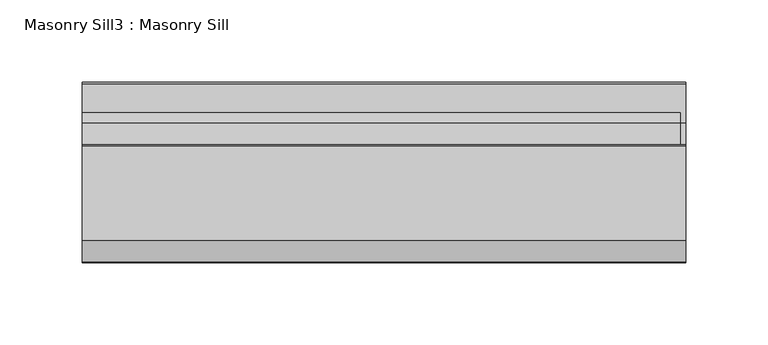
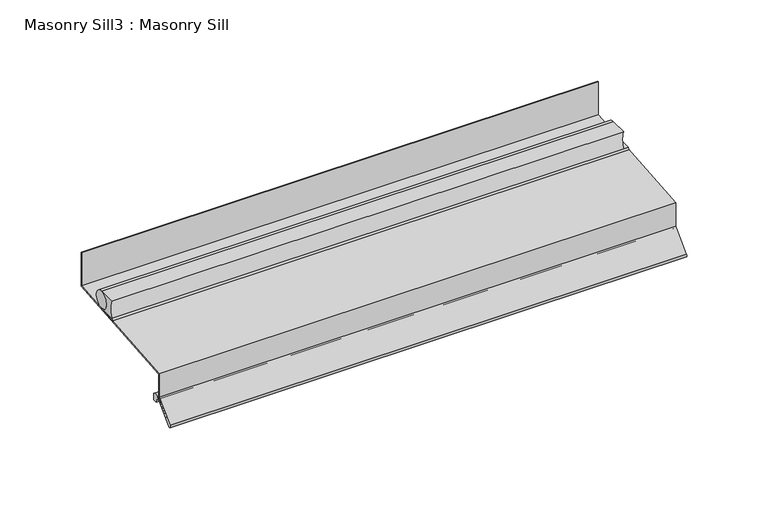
"""IFC4 building model written with IfcOpenShell, lengths in millimetres: proxy geometry, Masonry Sill3 : Masonry Sill."""

from ifc_helpers import new_model, si_unit, point, frame, frame_2d, origin, place, context, project, spatial, polyline, circle_curve, trimmed, segment, composite_curve, outline, extrude, source, transform, mapped, element, save


def masonry_sill3_masonry_sill_9eb3d358(model_context):
    return source(origin(), model_context, "Body", "SweptSolid", [
        extrude(outline(composite_curve([segment(trimmed(circle_curve(frame_2d((605.834275, 465.1375)), 6.35), [point((605.834275, 471.4875))], [point((605.834275, 458.7875))], True, "CARTESIAN"), True, "CONTINUOUS"), segment(polyline([(605.834275, 458.7875), (593.134275, 458.7875)]), True, "CONTINUOUS"), segment(trimmed(circle_curve(frame_2d((582.1357524, 465.1375)), 12.7), [point((593.134275, 458.7875))], [point((593.134275, 471.4875))], True, "CARTESIAN"), True, "CONTINUOUS"), segment(polyline([(593.134275, 471.4875), (605.834275, 471.4875)]), True, "CONTINUOUS")], self_intersect=False)), frame((26489.1726773, 0.0, 0.0), z_axis=(1.0, 0.0, 0.0), x_axis=(0.0, 1.0, 0.0)), (0.0, 0.0, 1.0), 363.5375),
        extrude(outline(composite_curve([segment(trimmed(circle_curve(frame_2d((605.834275, 465.1375)), 6.35), [point((605.834275, 458.7875))], [point((605.834275, 471.4875))], False, "CARTESIAN"), True, "CONTINUOUS"), segment(trimmed(circle_curve(frame_2d((605.834275, 465.1375)), 6.35), [point((605.834275, 471.4875))], [point((605.834275, 458.7875))], False, "CARTESIAN"), True, "CONTINUOUS")], self_intersect=False)), frame((26489.1726773, 0.0, 0.0), z_axis=(1.0, 0.0, 0.0), x_axis=(0.0, 1.0, 0.0)), (0.0, 0.0, 1.0), 363.5375),
        extrude(outline(composite_curve([segment(polyline([(593.134275, 458.7875), (605.841516, 458.7875), (592.3632243, 457.6083023)]), True, "CONTINUOUS"), segment(trimmed(circle_curve(frame_2d((582.1357524, 465.1375)), 12.7), [point((592.3632243, 457.6083023))], [point((593.134275, 458.7875))], True, "CARTESIAN"), True, "CONTINUOUS")], self_intersect=False)), frame((26489.1726773, 0.0, 0.0), z_axis=(1.0, 0.0, 0.0), x_axis=(0.0, 1.0, 0.0)), (0.0, 0.0, 1.0), 366.7125),
        extrude(outline(composite_curve([segment(polyline([(630.8066297, 460.1748824), (535.5566297, 451.8415872), (535.5566297, 434.7748824), (522.0862455, 421.3044982)]), True, "CONTINUOUS"), segment(trimmed(circle_curve(frame_2d((522.3668785, 421.0238652)), 0.396875), [point((522.0862455, 421.3044982))], [point((522.6475115, 420.7432322))], True, "CARTESIAN"), True, "CONTINUOUS"), segment(polyline([(522.6475115, 420.7432322), (536.1178957, 434.2136164), (536.6791617, 433.6523504), (523.2087775, 420.1819662)]), True, "CONTINUOUS"), segment(trimmed(circle_curve(frame_2d((522.3668785, 421.0238652)), 1.190625), [point((523.2087775, 420.1819662))], [point((521.5249795, 421.8657643))], False, "CARTESIAN"), True, "CONTINUOUS"), segment(polyline([(521.5249795, 421.8657643), (534.7628797, 435.1036644), (534.7628797, 452.5689251), (630.0128797, 460.9022203), (630.0128797, 485.5748824), (630.8066297, 485.5748824), (630.8066297, 460.1748824)]), True, "CONTINUOUS")], self_intersect=False)), frame((26489.1726773, 0.0, 0.0), z_axis=(1.0, 0.0, 0.0), x_axis=(0.0, 1.0, 0.0)), (0.0, 0.0, 1.0), 366.7125),
        extrude(outline(composite_curve([segment(polyline([(541.9066297, 433.6523504), (541.9066297, 428.8061332), (538.7316297, 428.8061332)]), True, "CONTINUOUS"), segment(trimmed(circle_curve(frame_2d((535.2822871, 428.8061332)), 3.4493426), [point((538.7316297, 428.8061332))], [point((535.2822871, 432.2554758))], True, "CARTESIAN"), True, "CONTINUOUS"), segment(polyline([(535.2822871, 432.2554758), (536.6791617, 433.6523504)]), True, "CONTINUOUS"), segment(trimmed(circle_curve(frame_2d((539.2928957, 431.0386164)), 3.6963781), [point((536.6791617, 433.6523504))], [point((541.9066297, 433.6523504))], False, "CARTESIAN"), True, "CONTINUOUS")], self_intersect=False)), frame((26489.1726773, 0.0, 0.0), z_axis=(1.0, 0.0, 0.0), x_axis=(0.0, 1.0, 0.0)), (0.0, 0.0, 1.0), 366.7125),
    ])


if __name__ == "__main__":
    model = new_model("IFC4")
    model_context = context("Model", 3, world=origin())
    ifc_project = project(units=[si_unit("LENGTHUNIT", "METRE", prefix="MILLI")], contexts=[model_context])
    site = spatial("IfcSite", under=ifc_project)
    building = spatial("IfcBuilding", under=site)
    placement = place(None, origin())
    masonry_sill3_masonry_sill_shape = masonry_sill3_masonry_sill_9eb3d358(model_context)
    element("IfcBuildingElementProxy", 1, Name="Masonry Sill3 : Masonry Sill", ObjectType="Masonry Sill3 : Masonry Sill", at=placement, inside=building, context=model_context, shape_type="MappedRepresentation", body=[
        mapped(masonry_sill3_masonry_sill_shape, transform((0.0, 0.0, 0.0), x_axis=(1.0, 0.0, 0.0), y_axis=(0.0, 1.0, 0.0), z_axis=(0.0, 0.0, 1.0))),
    ])
    save(model, "model.ifc")
